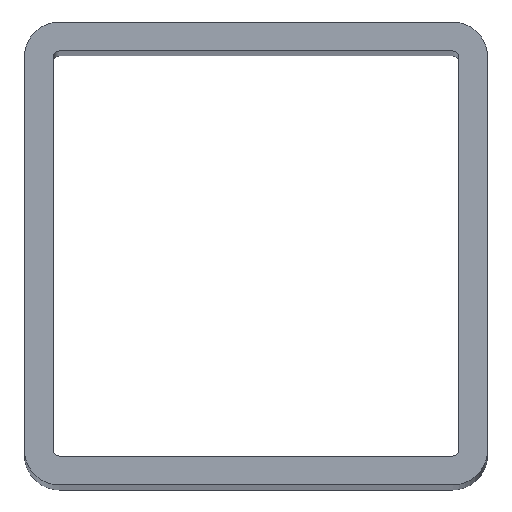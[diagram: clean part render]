
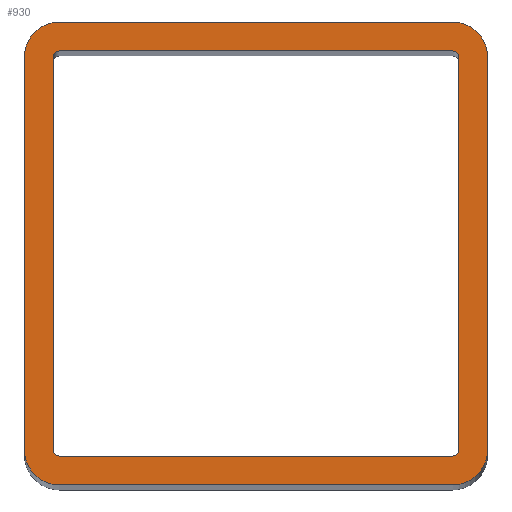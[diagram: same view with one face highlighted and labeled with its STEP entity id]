
A CAD part, top view. The second image highlights one B-rep face of the part: STEP entity #930.
In plain terms, the highlighted planar face has unit normal (0, 0, 1).
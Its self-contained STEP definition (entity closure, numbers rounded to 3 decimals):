
#440=CARTESIAN_POINT('',(-34.,34.,250.));
#441=DIRECTION('',(0.,0.,1.));
#442=DIRECTION('',(0.,1.,0.));
#443=AXIS2_PLACEMENT_3D('',#440,#441,#442);
#448=DIRECTION('',(-1.,0.,0.));
#449=VECTOR('',#448,68.);
#450=CARTESIAN_POINT('',(34.,40.,250.));
#451=LINE('',#450,#449);
#455=CARTESIAN_POINT('',(34.,34.,250.));
#456=DIRECTION('',(0.,0.,1.));
#457=DIRECTION('',(1.,0.,0.));
#458=AXIS2_PLACEMENT_3D('',#455,#456,#457);
#463=DIRECTION('',(0.,1.,0.));
#464=VECTOR('',#463,68.);
#465=CARTESIAN_POINT('',(40.,-34.,250.));
#466=LINE('',#465,#464);
#470=CARTESIAN_POINT('',(34.,-34.,250.));
#471=DIRECTION('',(0.,0.,1.));
#472=DIRECTION('',(0.,-1.,0.));
#473=AXIS2_PLACEMENT_3D('',#470,#471,#472);
#478=DIRECTION('',(1.,0.,0.));
#479=VECTOR('',#478,68.);
#480=CARTESIAN_POINT('',(-34.,-40.,250.));
#481=LINE('',#480,#479);
#485=CARTESIAN_POINT('',(-34.,-34.,250.));
#486=DIRECTION('',(0.,0.,1.));
#487=DIRECTION('',(-1.,0.,0.));
#488=AXIS2_PLACEMENT_3D('',#485,#486,#487);
#493=DIRECTION('',(0.,-1.,0.));
#494=VECTOR('',#493,68.);
#495=CARTESIAN_POINT('',(-40.,34.,250.));
#496=LINE('',#495,#494);
#500=DIRECTION('',(1.,0.,0.));
#501=VECTOR('',#500,68.);
#502=CARTESIAN_POINT('',(-34.,35.,250.));
#503=LINE('',#502,#501);
#507=CARTESIAN_POINT('',(-34.,34.,250.));
#508=DIRECTION('',(0.,0.,-1.));
#509=DIRECTION('',(-1.,0.,0.));
#510=AXIS2_PLACEMENT_3D('',#507,#508,#509);
#515=DIRECTION('',(0.,1.,0.));
#516=VECTOR('',#515,68.);
#517=CARTESIAN_POINT('',(-35.,-34.,250.));
#518=LINE('',#517,#516);
#522=CARTESIAN_POINT('',(-34.,-34.,250.));
#523=DIRECTION('',(0.,0.,-1.));
#524=DIRECTION('',(0.,-1.,0.));
#525=AXIS2_PLACEMENT_3D('',#522,#523,#524);
#530=DIRECTION('',(-1.,0.,0.));
#531=VECTOR('',#530,68.);
#532=CARTESIAN_POINT('',(34.,-35.,250.));
#533=LINE('',#532,#531);
#537=CARTESIAN_POINT('',(34.,-34.,250.));
#538=DIRECTION('',(0.,0.,-1.));
#539=DIRECTION('',(1.,0.,0.));
#540=AXIS2_PLACEMENT_3D('',#537,#538,#539);
#545=DIRECTION('',(0.,-1.,0.));
#546=VECTOR('',#545,68.);
#547=CARTESIAN_POINT('',(35.,34.,250.));
#548=LINE('',#547,#546);
#552=CARTESIAN_POINT('',(34.,34.,250.));
#553=DIRECTION('',(0.,0.,-1.));
#554=DIRECTION('',(0.,1.,0.));
#555=AXIS2_PLACEMENT_3D('',#552,#553,#554);
#648=CARTESIAN_POINT('',(-34.,40.,250.));
#649=CARTESIAN_POINT('',(-40.,34.,250.));
#650=VERTEX_POINT('',#648);
#651=VERTEX_POINT('',#649);
#652=CARTESIAN_POINT('',(-40.,-34.,250.));
#653=VERTEX_POINT('',#652);
#654=CARTESIAN_POINT('',(-34.,-40.,250.));
#655=VERTEX_POINT('',#654);
#656=CARTESIAN_POINT('',(34.,-40.,250.));
#657=VERTEX_POINT('',#656);
#658=CARTESIAN_POINT('',(40.,-34.,250.));
#659=VERTEX_POINT('',#658);
#660=CARTESIAN_POINT('',(40.,34.,250.));
#661=VERTEX_POINT('',#660);
#662=CARTESIAN_POINT('',(34.,40.,250.));
#663=VERTEX_POINT('',#662);
#664=CARTESIAN_POINT('',(-34.,35.,250.));
#665=CARTESIAN_POINT('',(34.,35.,250.));
#666=VERTEX_POINT('',#664);
#667=VERTEX_POINT('',#665);
#668=CARTESIAN_POINT('',(35.,34.,250.));
#669=VERTEX_POINT('',#668);
#670=CARTESIAN_POINT('',(35.,-34.,250.));
#671=VERTEX_POINT('',#670);
#672=CARTESIAN_POINT('',(34.,-35.,250.));
#673=VERTEX_POINT('',#672);
#674=CARTESIAN_POINT('',(-34.,-35.,250.));
#675=VERTEX_POINT('',#674);
#676=CARTESIAN_POINT('',(-35.,-34.,250.));
#677=VERTEX_POINT('',#676);
#678=CARTESIAN_POINT('',(-35.,34.,250.));
#679=VERTEX_POINT('',#678);
#897=CARTESIAN_POINT('',(0.,0.,250.));
#898=DIRECTION('',(0.,0.,1.));
#899=DIRECTION('',(1.,0.,0.));
#900=AXIS2_PLACEMENT_3D('',#897,#898,#899);
#901=PLANE('',#900);
#902=ORIENTED_EDGE('',*,*,#737,.F.);
#903=ORIENTED_EDGE('',*,*,#759,.F.);
#904=ORIENTED_EDGE('',*,*,#780,.F.);
#905=ORIENTED_EDGE('',*,*,#801,.F.);
#906=ORIENTED_EDGE('',*,*,#822,.F.);
#907=ORIENTED_EDGE('',*,*,#843,.F.);
#908=ORIENTED_EDGE('',*,*,#864,.F.);
#909=ORIENTED_EDGE('',*,*,#884,.F.);
#910=EDGE_LOOP('',(#902,#903,#904,#905,#906,#907,#908,#909));
#911=FACE_OUTER_BOUND('',#910,.F.);
#913=ORIENTED_EDGE('',*,*,#912,.F.);
#915=ORIENTED_EDGE('',*,*,#914,.F.);
#917=ORIENTED_EDGE('',*,*,#916,.F.);
#919=ORIENTED_EDGE('',*,*,#918,.F.);
#921=ORIENTED_EDGE('',*,*,#920,.F.);
#923=ORIENTED_EDGE('',*,*,#922,.F.);
#925=ORIENTED_EDGE('',*,*,#924,.F.);
#927=ORIENTED_EDGE('',*,*,#926,.F.);
#928=EDGE_LOOP('',(#913,#915,#917,#919,#921,#923,#925,#927));
#929=FACE_BOUND('',#928,.F.);
#444=CIRCLE('',#443,6.);
#459=CIRCLE('',#458,6.);
#474=CIRCLE('',#473,6.);
#489=CIRCLE('',#488,6.);
#511=CIRCLE('',#510,1.);
#526=CIRCLE('',#525,1.);
#541=CIRCLE('',#540,1.);
#556=CIRCLE('',#555,1.);
#737=EDGE_CURVE('',#650,#651,#444,.T.);
#759=EDGE_CURVE('',#663,#650,#451,.T.);
#780=EDGE_CURVE('',#661,#663,#459,.T.);
#801=EDGE_CURVE('',#659,#661,#466,.T.);
#822=EDGE_CURVE('',#657,#659,#474,.T.);
#843=EDGE_CURVE('',#655,#657,#481,.T.);
#864=EDGE_CURVE('',#653,#655,#489,.T.);
#884=EDGE_CURVE('',#651,#653,#496,.T.);
#912=EDGE_CURVE('',#666,#667,#503,.T.);
#914=EDGE_CURVE('',#679,#666,#511,.T.);
#916=EDGE_CURVE('',#677,#679,#518,.T.);
#918=EDGE_CURVE('',#675,#677,#526,.T.);
#920=EDGE_CURVE('',#673,#675,#533,.T.);
#922=EDGE_CURVE('',#671,#673,#541,.T.);
#924=EDGE_CURVE('',#669,#671,#548,.T.);
#926=EDGE_CURVE('',#667,#669,#556,.T.);
#930=ADVANCED_FACE('',(#911,#929),#901,.T.);
